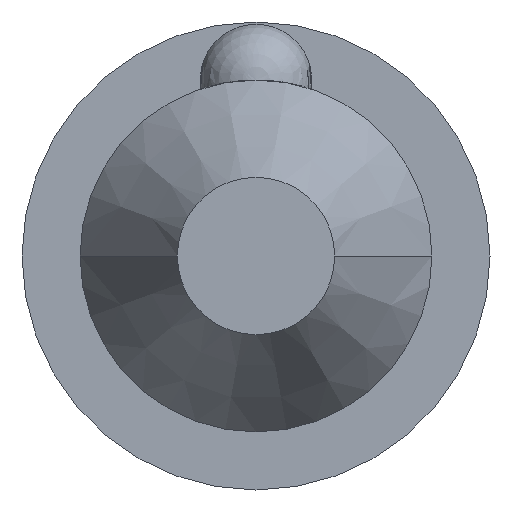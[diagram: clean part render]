
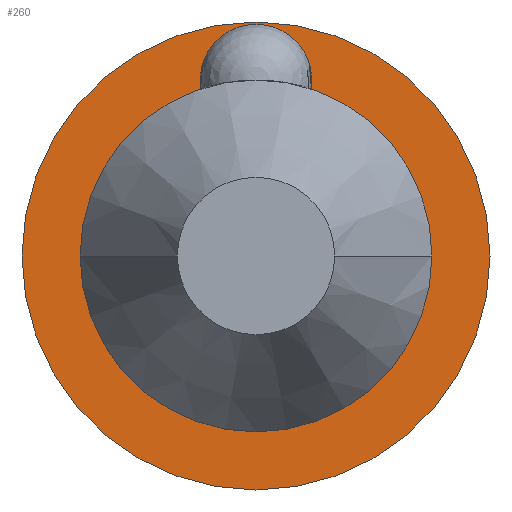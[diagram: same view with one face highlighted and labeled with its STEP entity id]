
A CAD part, front view. The second image highlights one B-rep face of the part: STEP entity #260.
In plain terms, the highlighted planar face has unit normal (0, -1, 0).
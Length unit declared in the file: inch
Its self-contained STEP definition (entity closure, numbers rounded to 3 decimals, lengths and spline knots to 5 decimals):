
#47=CARTESIAN_POINT('',(0.,2.21,0.));
#48=DIRECTION('',(0.,-1.,0.));
#49=DIRECTION('',(-1.,0.,0.));
#50=AXIS2_PLACEMENT_3D('',#47,#48,#49);
#52=CARTESIAN_POINT('',(0.,2.21,0.));
#53=DIRECTION('',(0.,1.,0.));
#54=DIRECTION('',(-1.,0.,0.));
#55=AXIS2_PLACEMENT_3D('',#52,#53,#54);
#57=CARTESIAN_POINT('',(0.,2.21,0.));
#58=DIRECTION('',(0.,1.,0.));
#59=DIRECTION('',(-1.,0.,0.));
#60=AXIS2_PLACEMENT_3D('',#57,#58,#59);
#98=CARTESIAN_POINT('',(0.,2.21,0.));
#99=DIRECTION('',(0.,-1.,0.));
#100=DIRECTION('',(-1.,0.,0.));
#101=AXIS2_PLACEMENT_3D('',#98,#99,#100);
#148=CARTESIAN_POINT('',(-0.125,2.21,0.));
#150=VERTEX_POINT('',#148);
#151=CARTESIAN_POINT('',(-0.094,2.21,0.));
#152=VERTEX_POINT('',#151);
#154=CARTESIAN_POINT('',(0.125,2.21,0.));
#156=VERTEX_POINT('',#154);
#157=CARTESIAN_POINT('',(0.094,2.21,0.));
#158=VERTEX_POINT('',#157);
#245=CARTESIAN_POINT('',(0.,2.21,0.));
#246=DIRECTION('',(0.,1.,0.));
#247=DIRECTION('',(1.,0.,0.));
#248=AXIS2_PLACEMENT_3D('',#245,#246,#247);
#249=PLANE('',#248);
#250=ORIENTED_EDGE('',*,*,#238,.F.);
#251=ORIENTED_EDGE('',*,*,#227,.T.);
#252=EDGE_LOOP('',(#250,#251));
#253=FACE_OUTER_BOUND('',#252,.F.);
#255=ORIENTED_EDGE('',*,*,#254,.F.);
#257=ORIENTED_EDGE('',*,*,#256,.T.);
#258=EDGE_LOOP('',(#255,#257));
#259=FACE_BOUND('',#258,.F.);
#260=ADVANCED_FACE('',(#253,#259),#249,.F.);
#51=CIRCLE('',#50,0.125);
#56=CIRCLE('',#55,0.125);
#61=CIRCLE('',#60,0.094);
#102=CIRCLE('',#101,0.094);
#227=EDGE_CURVE('',#150,#156,#56,.T.);
#238=EDGE_CURVE('',#150,#156,#51,.T.);
#254=EDGE_CURVE('',#152,#158,#61,.T.);
#256=EDGE_CURVE('',#152,#158,#102,.T.);
